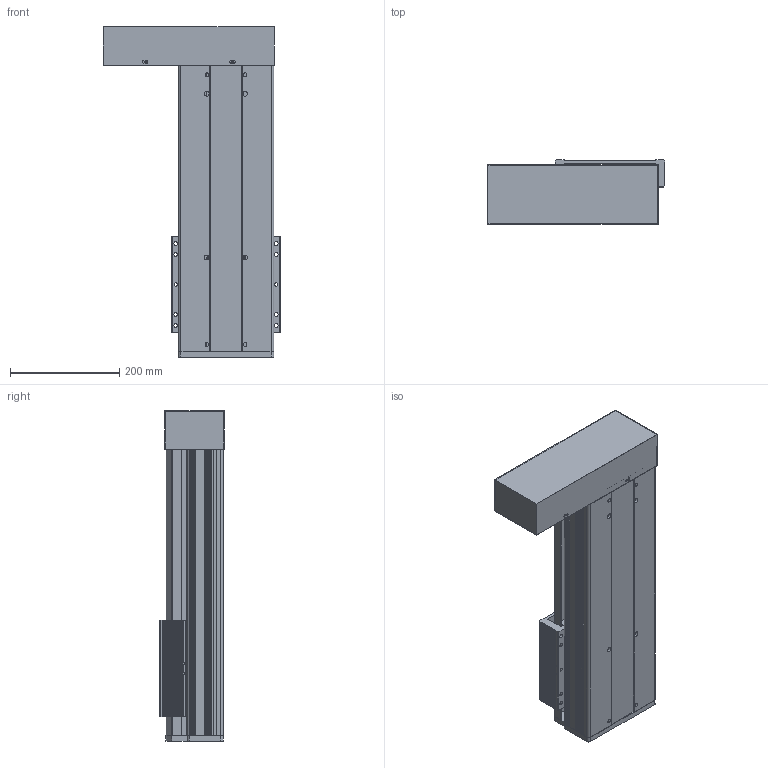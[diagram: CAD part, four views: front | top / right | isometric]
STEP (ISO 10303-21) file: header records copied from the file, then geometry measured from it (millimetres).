
FILE_DESCRIPTION (( 'STEP AP214' ), '1' );
FILE_NAME ('CF175B-C-250-FWL.STEP', '2019-12-03T03:10:21', ( '微软用户' ), ( '微软中国' ), 'SwSTEP 2.0', 'SolidWorks 2016', '' );
FILE_SCHEMA (( 'AUTOMOTIVE_DESIGN' ));
Length unit declared in the file: millimetre
Products named in the file (12): 175B殏俔萇儂啣; 175-2同步带从动端固定座; CF175-2賑雄啣; EGR20絳寢-250; 175B臏倰第-250; CF175B-250; CF175-2蹟譫釱; 175-2盓傅釱; 175-2耜啣; CF-EGH20CA賑輸; CF175B-C-250-FWL; 肮祭謫欶
Assembly tree (15 placements, depth 2):
  CF175B-C-250-FWL
    CF-EGH20CA賑輸  x4
    175-2耜啣
    175-2盓傅釱
    CF175-2蹟譫釱
    CF175B-250
    175B臏倰第-250
    EGR20絳寢-250  x2
    CF175-2賑雄啣
    175-2同步带从动端固定座
    175B殏俔萇儂啣
    肮祭謫欶
Bounding box: 324.5 x 118.3 x 605 mm (x, y, z)
Volume: 5381100.1 mm3; surface area: 1584907.4 mm2
Topology: 21 solids, 21 shells, 1238 faces, 3269 edges, 2165 vertices
Faces by surface type: plane 633, cylinder 595, cone 8, bspline 2
Entity records: 32074 total; most frequent: DIRECTION 5355, CARTESIAN_POINT 5297, ORIENTED_EDGE 4968, EDGE_CURVE 2484, AXIS2_PLACEMENT_3D 1947, VERTEX_POINT 1649, VECTOR 1461, LINE 1461
